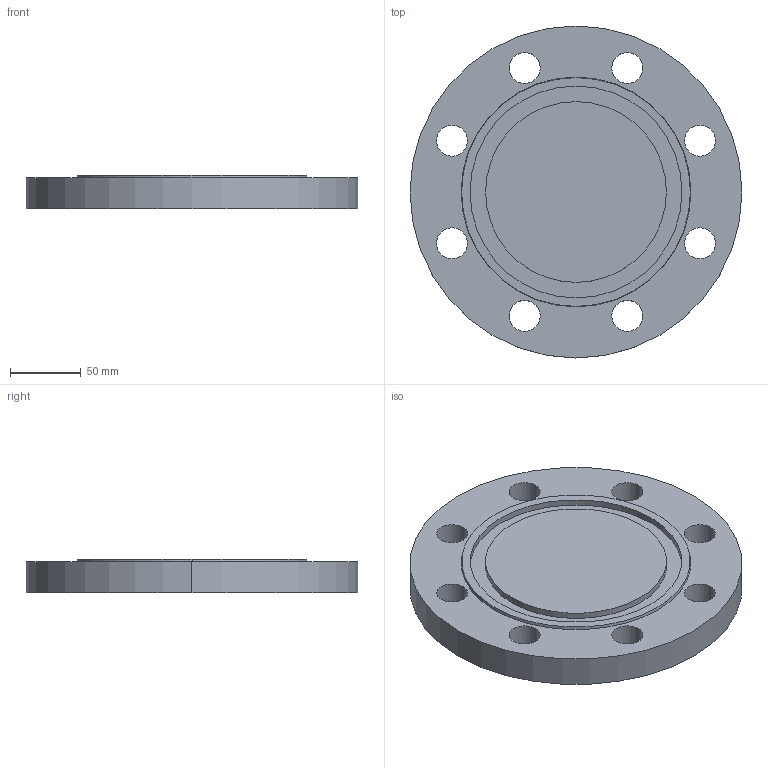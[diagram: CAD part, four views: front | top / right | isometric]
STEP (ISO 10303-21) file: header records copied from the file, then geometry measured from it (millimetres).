
FILE_DESCRIPTION (( 'STEP AP214' ), '1' );
FILE_NAME ('PN40 DN100 Type 05 - Type D Face.STEP', '2019-01-02T00:25:40', ( '' ), ( '' ), 'SwSTEP 2.0', 'SolidWorks 2019', '' );
FILE_SCHEMA (( 'AUTOMOTIVE_DESIGN' ));
Length unit declared in the file: millimetre
Products named in the file (1): PN40 DN100 Type 05 - Type D Face
Bounding box: 235 x 235 x 24 mm (x, y, z)
Volume: 907104.1 mm3; surface area: 113857.5 mm2
Topology: 1 solids, 1 shells, 29 faces, 72 edges, 48 vertices
Faces by surface type: cylinder 22, plane 5, cone 2
Entity records: 960 total; most frequent: DIRECTION 180, CARTESIAN_POINT 150, ORIENTED_EDGE 144, AXIS2_PLACEMENT_3D 78, EDGE_CURVE 72, CIRCLE 48, EDGE_LOOP 48, VERTEX_POINT 48
